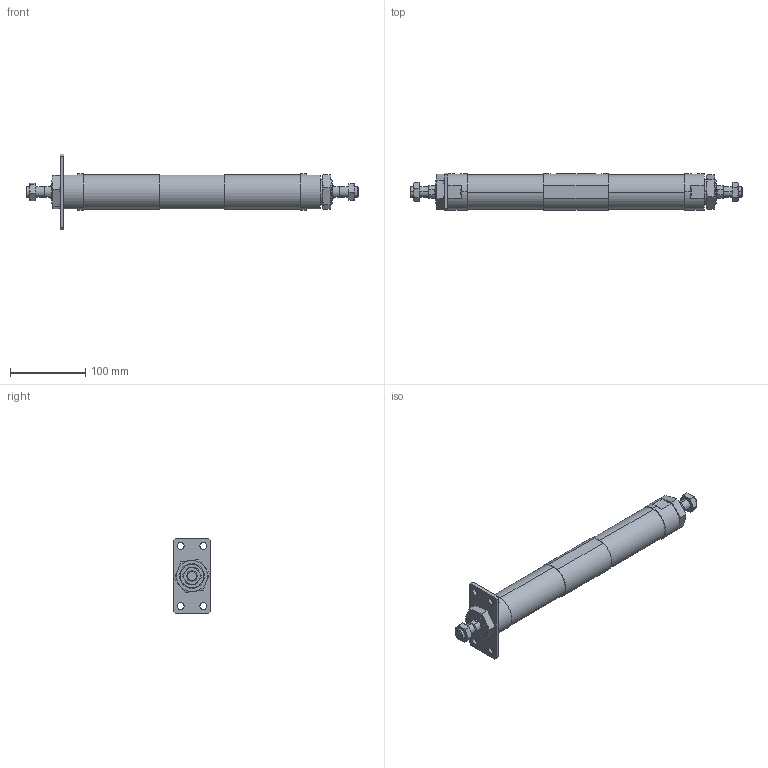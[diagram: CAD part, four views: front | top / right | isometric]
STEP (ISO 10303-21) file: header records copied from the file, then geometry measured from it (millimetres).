
FILE_DESCRIPTION (( 'STEP AP203' ), '1' );
FILE_NAME ('JGD7-40-50-50-A.STEP', '2016-04-19T07:25:15', ( '' ), ( '' ), 'SwSTEP 2.0', 'SolidWorks 2014', '' );
FILE_SCHEMA (( 'CONFIG_CONTROL_DESIGN' ));
Length unit declared in the file: millimetre
Products named in the file (7): 40-50; M33x2-11mm; JGD2-40MI; JGD7-40-50-50-A; J#2-40-A; JGLH2-40B; M14x1.5-8mm
Assembly tree (10 placements, depth 2):
  JGD7-40-50-50-A
    JGLH2-40B  x2
    40-50  x2
    JGD2-40MI
    M14x1.5-8mm  x2
    M33x2-11mm  x2
    J#2-40-A
Bounding box: 440 x 50 x 100 mm (x, y, z)
Volume: 651659.5 mm3; surface area: 96920.3 mm2
Topology: 10 solids, 10 shells, 192 faces, 430 edges, 258 vertices
Faces by surface type: plane 70, cylinder 48, torus 48, cone 26
Entity records: 4532 total; most frequent: CARTESIAN_POINT 1179, DIRECTION 537, ORIENTED_EDGE 504, EDGE_CURVE 252, AXIS2_PLACEMENT_3D 220, VERTEX_POINT 156, EDGE_LOOP 132, ADVANCED_FACE 113
